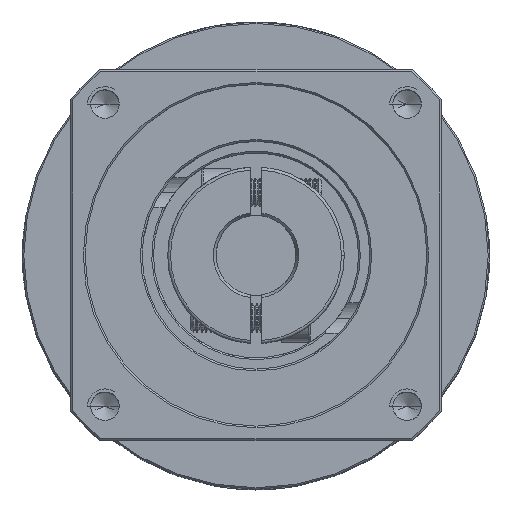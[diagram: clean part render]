
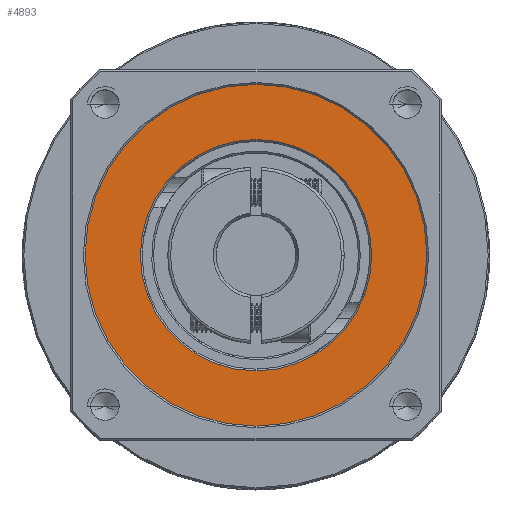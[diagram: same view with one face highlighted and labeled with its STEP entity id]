
A CAD part, top view. The second image highlights one B-rep face of the part: STEP entity #4893.
In plain terms, the highlighted planar face has unit normal (0, 0, 1).
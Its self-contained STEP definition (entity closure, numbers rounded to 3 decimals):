
#3280 = DIRECTION ( 'NONE',  ( 1., 0., 0. ) ) ;
#4893 = ADVANCED_FACE ( 'NONE', ( #34378, #7332 ), #29679, .T. ) ;
#7332 = FACE_OUTER_BOUND ( 'NONE', #79198, .T. ) ;
#9691 = DIRECTION ( 'NONE',  ( 0., 0., 1. ) ) ;
#12003 = AXIS2_PLACEMENT_3D ( 'NONE', #82296, #21701, #92447 ) ;
#18451 = CIRCLE ( 'NONE', #31610, 30. ) ;
#20432 = CARTESIAN_POINT ( 'NONE',  ( -72.084, 16.078, 34.529 ) ) ;
#21701 = DIRECTION ( 'NONE',  ( 0., 0., -1. ) ) ;
#25411 = CARTESIAN_POINT ( 'NONE',  ( -92.384, 16.078, 34.529 ) ) ;
#26027 = EDGE_CURVE ( 'NONE', #118883, #117365, #65888, .T. ) ;
#29679 = PLANE ( 'NONE',  #42812 ) ;
#30605 = DIRECTION ( 'NONE',  ( 1., 0., 0. ) ) ;
#31610 = AXIS2_PLACEMENT_3D ( 'NONE', #20432, #91184, #30605 ) ;
#32040 = CIRCLE ( 'NONE', #94362, 30. ) ;
#32187 = ORIENTED_EDGE ( 'NONE', *, *, #89793, .T. ) ;
#34378 = FACE_BOUND ( 'NONE', #105322, .T. ) ;
#35961 = ORIENTED_EDGE ( 'NONE', *, *, #72686, .T. ) ;
#36762 = CIRCLE ( 'NONE', #75749, 20.3 ) ;
#40581 = CARTESIAN_POINT ( 'NONE',  ( -51.784, 16.078, 34.529 ) ) ;
#42812 = AXIS2_PLACEMENT_3D ( 'NONE', #70369, #9691, #80566 ) ;
#44708 = CARTESIAN_POINT ( 'NONE',  ( -72.084, 16.078, 34.529 ) ) ;
#49188 = EDGE_CURVE ( 'NONE', #117365, #118883, #36762, .T. ) ;
#54904 = DIRECTION ( 'NONE',  ( 1., 0., 0. ) ) ;
#57403 = VERTEX_POINT ( 'NONE', #88244 ) ;
#64033 = DIRECTION ( 'NONE',  ( 0., 0., 1. ) ) ;
#65888 = CIRCLE ( 'NONE', #12003, 20.3 ) ;
#70369 = CARTESIAN_POINT ( 'NONE',  ( -72.084, 16.078, 34.529 ) ) ;
#72686 = EDGE_CURVE ( 'NONE', #57403, #122280, #32040, .T. ) ;
#75749 = AXIS2_PLACEMENT_3D ( 'NONE', #44708, #115412, #54904 ) ;
#79198 = EDGE_LOOP ( 'NONE', ( #32187, #35961 ) ) ;
#80566 = DIRECTION ( 'NONE',  ( 1., 0., 0. ) ) ;
#82296 = CARTESIAN_POINT ( 'NONE',  ( -72.084, 16.078, 34.529 ) ) ;
#88244 = CARTESIAN_POINT ( 'NONE',  ( -102.084, 16.078, 34.529 ) ) ;
#89793 = EDGE_CURVE ( 'NONE', #122280, #57403, #18451, .T. ) ;
#91184 = DIRECTION ( 'NONE',  ( 0., 0., 1. ) ) ;
#92447 = DIRECTION ( 'NONE',  ( 1., 0., 0. ) ) ;
#94362 = AXIS2_PLACEMENT_3D ( 'NONE', #124511, #64033, #3280 ) ;
#99851 = ORIENTED_EDGE ( 'NONE', *, *, #49188, .T. ) ;
#105322 = EDGE_LOOP ( 'NONE', ( #128934, #99851 ) ) ;
#115412 = DIRECTION ( 'NONE',  ( 0., 0., -1. ) ) ;
#117365 = VERTEX_POINT ( 'NONE', #25411 ) ;
#118883 = VERTEX_POINT ( 'NONE', #40581 ) ;
#121241 = CARTESIAN_POINT ( 'NONE',  ( -42.084, 16.078, 34.529 ) ) ;
#122280 = VERTEX_POINT ( 'NONE', #121241 ) ;
#124511 = CARTESIAN_POINT ( 'NONE',  ( -72.084, 16.078, 34.529 ) ) ;
#128934 = ORIENTED_EDGE ( 'NONE', *, *, #26027, .T. ) ;
